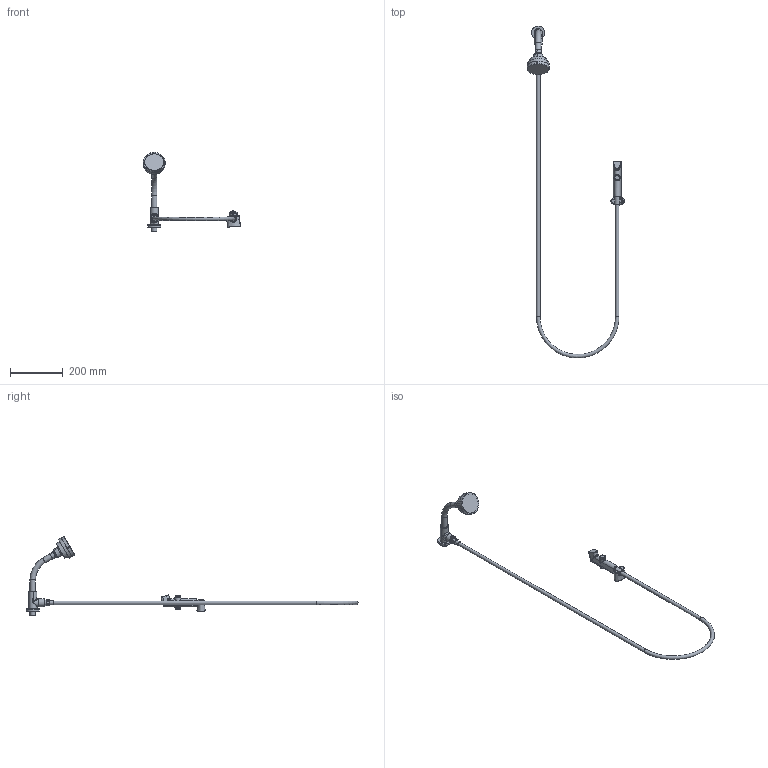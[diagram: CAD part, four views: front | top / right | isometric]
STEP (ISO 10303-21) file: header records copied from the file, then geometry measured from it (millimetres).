
FILE_DESCRIPTION (( 'STEP AP203' ), '1' );
FILE_NAME ('12306510.STEP', '2022-10-07T15:32:34', ( '' ), ( '' ), 'SwSTEP 2.0', 'SolidWorks 2018', '' );
FILE_SCHEMA (( 'CONFIG_CONTROL_DESIGN' ));
Length unit declared in the file: millimetre
Products named in the file (1): 12306510
Bounding box: 369.26 x 1261.74 x 300.55 mm (x, y, z)
Surface area: 175090.4 mm2 (no closed solid volume)
Topology: 0 solids, 1 shells, 360 faces, 861 edges, 470 vertices
Faces by surface type: cylinder 132, plane 76, torus 61, sphere 55, bspline 24, cone 12
Full cylindrical faces by diameter (mm): 13.5 x2, 14.8 x1, 15 x1, 18 x1, 19.7 x2, 20.6 x1, 20.63 x2, 20.7 x1, 20.8 x1, 24.2 x2, 29.7 x1, 30 x1, 30.2 x1, 31.46 x2, 35 x1, 51 x1, 66 x1, 72.5 x1, 73 x1, 75.4 x1, 82.2 x1
Entity records: 13096 total; most frequent: CARTESIAN_POINT 5509, DIRECTION 1710, ORIENTED_EDGE 1427, AXIS2_PLACEMENT_3D 764, EDGE_CURVE 714, EDGE_LOOP 441, VERTEX_POINT 436, CIRCLE 427
